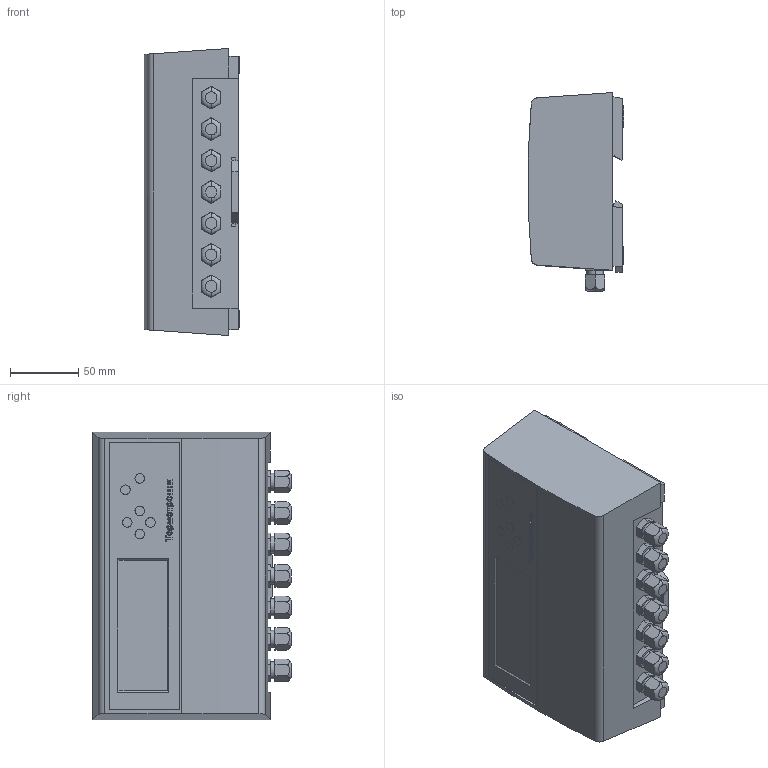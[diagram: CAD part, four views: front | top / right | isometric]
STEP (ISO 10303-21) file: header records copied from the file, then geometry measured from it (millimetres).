
FILE_DESCRIPTION (( 'STEP AP203' ), '1' );
FILE_NAME ('ﾒﾂ7ﾌ.STEP', '2019-01-24T07:55:02', ( '' ), ( '' ), 'SwSTEP 2.0', 'SolidWorks 2016', '' );
FILE_SCHEMA (( 'CONFIG_CONTROL_DESIGN' ));
Length unit declared in the file: millimetre
Products named in the file (1): ﾒﾂ7ﾌ
Bounding box: 70 x 145.18 x 210 mm (x, y, z)
Volume: 1682812.3 mm3; surface area: 109141.1 mm2
Topology: 1 solids, 1 shells, 476 faces, 1251 edges, 826 vertices
Faces by surface type: plane 335, cylinder 75, bspline 52, torus 14
Entity records: 18626 total; most frequent: CARTESIAN_POINT 7076, ORIENTED_EDGE 2502, DIRECTION 2115, EDGE_CURVE 1251, VECTOR 921, LINE 921, VERTEX_POINT 826, AXIS2_PLACEMENT_3D 597
